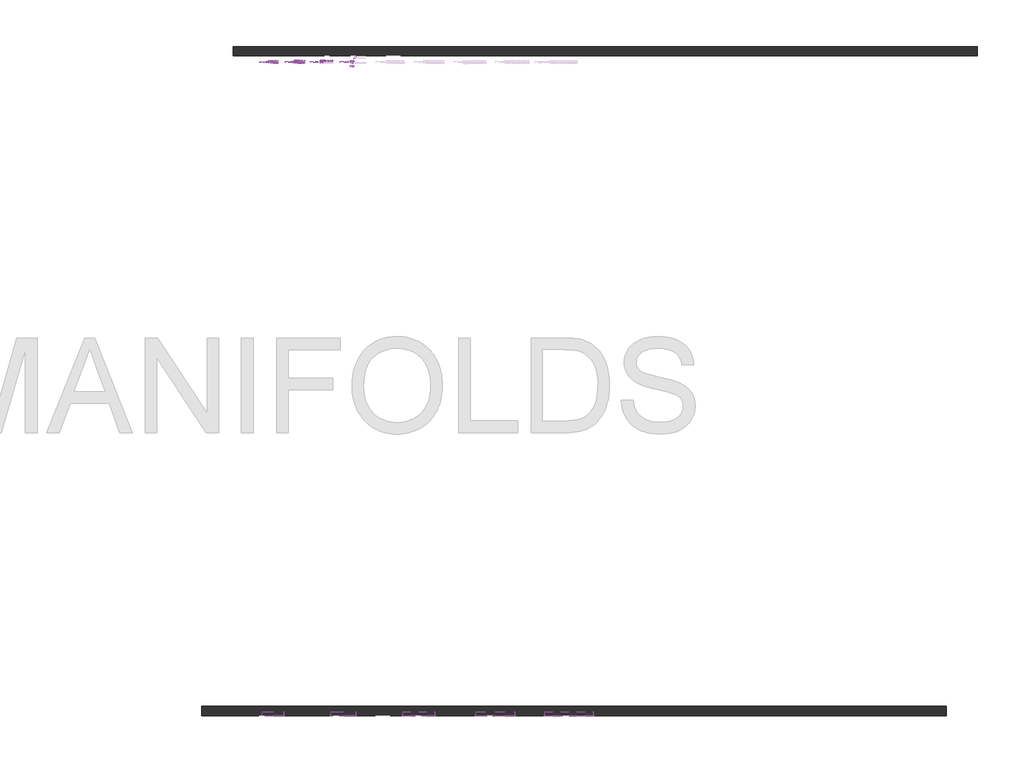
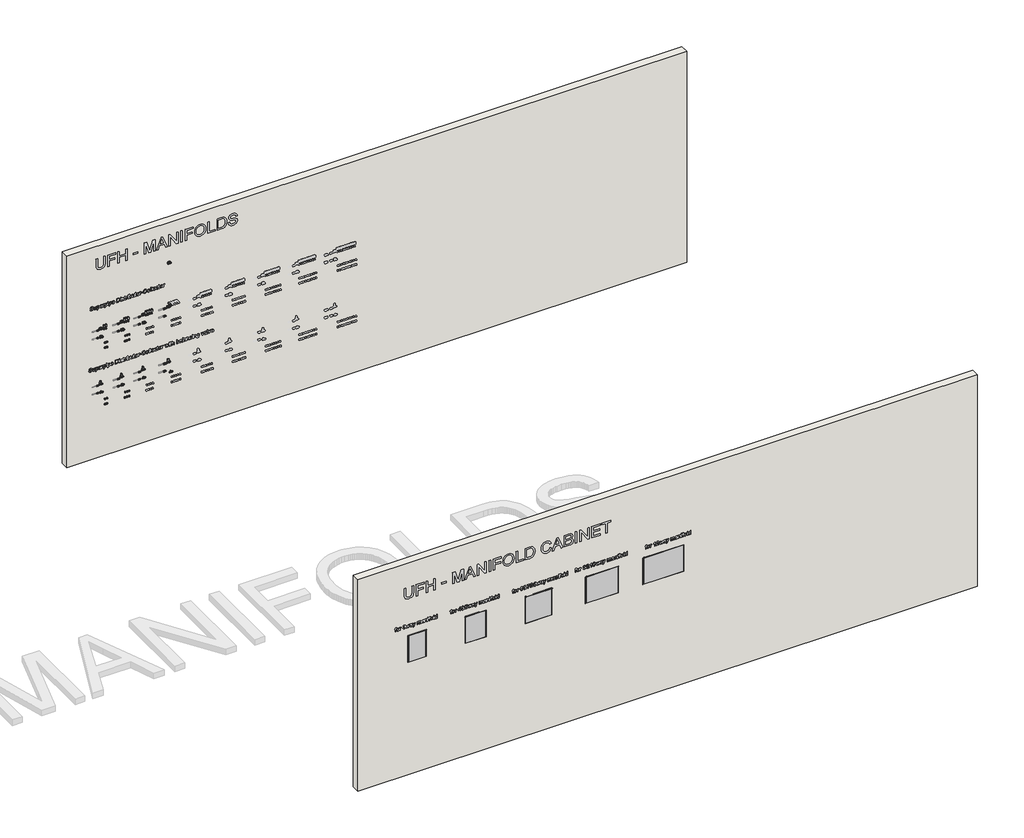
# One storey, part 1 of 26: 40 valves, 36 pipe fittings, 16 pipe segments, 2 walls.
"""IFC4 building model written with IfcOpenShell, lengths in millimetres."""

from ifc_helpers import new_model, si_unit, point, frame, frame_2d, origin, origin_with_axes, place, context, project, spatial, polyline, circle_curve, trimmed, segment, composite_curve, outline, extrude, faceted_brep, transform, mapped, element, save
from components import pipe_fitting_a4cde8ab, pipe_fitting_d8af90f1, press_connection_with_male_thread_6ada2280, press_connection_with_male_thread_5719c467, press_connection_with_male_thread_667abdb5, valve_0291d072, valve_f4025eb8, valve_fccc3399, valve_a3a22d59, valve_1bf73670, valve_7eb98000, valve_a9c0bb32, valve_f57de290, valve_f8c4578f, valve_6676fd30, valve_60ca6583, valve_ceda44c9, valve_7287f850, valve_68c88c4a

model = new_model("IFC4")

# Units and contexts
model_context = context("Model", 3, world=origin())
ifc_project = project(units=[si_unit("LENGTHUNIT", "METRE", prefix="MILLI")], contexts=[model_context])

# Site, building, storey
site = spatial("IfcSite", under=ifc_project)
building = spatial("IfcBuilding", under=site)
storey = spatial("IfcBuildingStorey", under=building, Name="Superpipe UFH", Elevation=0.0)

# Pipe fittings
placement = place(None, origin())
pipe_fitting_shape = pipe_fitting_a4cde8ab(model_context)
element("IfcPipeFitting", 1, ObjectType="Compression Adapter 3/4\"FT : Superpipe Compression Adapter", at=placement, inside=storey, context=model_context, shape_type="MappedRepresentation", body=[
    mapped(pipe_fitting_shape, transform((1275.0760208, -1357.1498396, 3024.2503675), x_axis=(0.0, 0.0, -1.0), y_axis=(0.0, 1.0, 0.0), z_axis=(1.0, 0.0, 0.0))),
])
element("IfcPipeFitting", 2, ObjectType="Compression Adapter 3/4\"FT : Superpipe Compression Adapter", at=placement, inside=storey, context=model_context, shape_type="MappedRepresentation", body=[
    mapped(pipe_fitting_shape, transform((1327.690436, -1357.1498396, 3024.2503675), x_axis=(0.0, 0.0, -1.0), y_axis=(0.0, 1.0, 0.0), z_axis=(1.0, 0.0, 0.0))),
])
element("IfcPipeFitting", 3, ObjectType="Compression Adapter 3/4\"FT : Superpipe Compression Adapter", at=placement, inside=storey, context=model_context, shape_type="MappedRepresentation", body=[
    mapped(pipe_fitting_shape, transform((1785.0760208, -1357.1498396, 3024.2503675), x_axis=(0.0, 0.0, -1.0), y_axis=(0.0, 1.0, 0.0), z_axis=(1.0, 0.0, 0.0))),
])
element("IfcPipeFitting", 4, ObjectType="Compression Adapter 3/4\"FT : Superpipe Compression Adapter", at=placement, inside=storey, context=model_context, shape_type="MappedRepresentation", body=[
    mapped(pipe_fitting_shape, transform((1837.690436, -1357.1498396, 3024.2503675), x_axis=(0.0, 0.0, -1.0), y_axis=(0.0, 1.0, 0.0), z_axis=(1.0, 0.0, 0.0))),
])
element("IfcPipeFitting", 5, ObjectType="Compression Adapter 3/4\"FT : Superpipe Compression Adapter", at=placement, inside=storey, context=model_context, shape_type="MappedRepresentation", body=[
    mapped(pipe_fitting_shape, transform((1892.690436, -1357.1498396, 3024.2503675), x_axis=(0.0, 0.0, -1.0), y_axis=(0.0, 1.0, 0.0), z_axis=(1.0, 0.0, 0.0))),
])
element("IfcPipeFitting", 6, ObjectType="Compression Adapter 3/4\"FT : Superpipe Compression Adapter", at=placement, inside=storey, context=model_context, shape_type="MappedRepresentation", body=[
    mapped(pipe_fitting_shape, transform((1275.0760208, -1357.1498396, 1504.2503675), x_axis=(0.0, 0.0, -1.0), y_axis=(0.0, 1.0, 0.0), z_axis=(1.0, 0.0, 0.0))),
])
element("IfcPipeFitting", 7, ObjectType="Compression Adapter 3/4\"FT : Superpipe Compression Adapter", at=placement, inside=storey, context=model_context, shape_type="MappedRepresentation", body=[
    mapped(pipe_fitting_shape, transform((1327.690436, -1357.1498396, 1504.2503675), x_axis=(0.0, 0.0, -1.0), y_axis=(0.0, 1.0, 0.0), z_axis=(1.0, 0.0, 0.0))),
])
element("IfcPipeFitting", 8, ObjectType="Compression Adapter 3/4\"FT : Superpipe Compression Adapter", at=placement, inside=storey, context=model_context, shape_type="MappedRepresentation", body=[
    mapped(pipe_fitting_shape, transform((1785.0760208, -1357.1498396, 1504.2503675), x_axis=(0.0, 0.0, -1.0), y_axis=(0.0, 1.0, 0.0), z_axis=(1.0, 0.0, 0.0))),
])
element("IfcPipeFitting", 9, ObjectType="Compression Adapter 3/4\"FT : Superpipe Compression Adapter", at=placement, inside=storey, context=model_context, shape_type="MappedRepresentation", body=[
    mapped(pipe_fitting_shape, transform((1837.690436, -1357.1498396, 1504.2503675), x_axis=(0.0, 0.0, -1.0), y_axis=(0.0, 1.0, 0.0), z_axis=(1.0, 0.0, 0.0))),
])
element("IfcPipeFitting", 10, ObjectType="Compression Adapter 3/4\"FT : Superpipe Compression Adapter", at=placement, inside=storey, context=model_context, shape_type="MappedRepresentation", body=[
    mapped(pipe_fitting_shape, transform((1892.690436, -1357.1498396, 1504.2503675), x_axis=(0.0, 0.0, -1.0), y_axis=(0.0, 1.0, 0.0), z_axis=(1.0, 0.0, 0.0))),
])
pipe_fitting_2_shape = pipe_fitting_d8af90f1(model_context)
element("IfcPipeFitting", 11, ObjectType="Compression Adapter Euro : Superpipe Compression Adapter Euro", at=placement, inside=storey, context=model_context, shape_type="MappedRepresentation", body=[
    mapped(pipe_fitting_2_shape, transform((1272.7857584, -1357.1498396, 3162.7554532), x_axis=(0.0, 0.0, -1.0000000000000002), y_axis=(0.0, 1.0000000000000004, 0.0), z_axis=(1.0000000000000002, 0.0, 0.0))),
])
element("IfcPipeFitting", 12, ObjectType="Compression Adapter Euro : Superpipe Compression Adapter Euro", at=placement, inside=storey, context=model_context, shape_type="MappedRepresentation", body=[
    mapped(pipe_fitting_2_shape, transform((1325.2857584, -1357.1498396, 3162.7554532), x_axis=(0.0, 0.0, -1.0000000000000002), y_axis=(0.0, 1.0000000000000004, 0.0), z_axis=(1.0000000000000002, 0.0, 0.0))),
])
element("IfcPipeFitting", 13, ObjectType="Compression Adapter Euro : Superpipe Compression Adapter Euro", at=placement, inside=storey, context=model_context, shape_type="MappedRepresentation", body=[
    mapped(pipe_fitting_2_shape, transform((1792.7857584, -1357.1498396, 3162.7554532), x_axis=(0.0, 0.0, -1.0000000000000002), y_axis=(0.0, 1.0000000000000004, 0.0), z_axis=(1.0000000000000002, 0.0, 0.0))),
])
element("IfcPipeFitting", 14, ObjectType="Compression Adapter Euro : Superpipe Compression Adapter Euro", at=placement, inside=storey, context=model_context, shape_type="MappedRepresentation", body=[
    mapped(pipe_fitting_2_shape, transform((1842.7857584, -1357.1498396, 3162.7554532), x_axis=(0.0, 0.0, -1.0000000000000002), y_axis=(0.0, 1.0000000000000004, 0.0), z_axis=(1.0000000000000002, 0.0, 0.0))),
])
element("IfcPipeFitting", 15, ObjectType="Compression Adapter Euro : Superpipe Compression Adapter Euro", at=placement, inside=storey, context=model_context, shape_type="MappedRepresentation", body=[
    mapped(pipe_fitting_2_shape, transform((1894.0357584, -1357.1498396, 3162.7554532), x_axis=(0.0, 0.0, -1.0000000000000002), y_axis=(0.0, 1.0000000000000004, 0.0), z_axis=(1.0000000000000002, 0.0, 0.0))),
])
element("IfcPipeFitting", 16, ObjectType="Compression Adapter Euro : Superpipe Compression Adapter Euro", at=placement, inside=storey, context=model_context, shape_type="MappedRepresentation", body=[
    mapped(pipe_fitting_2_shape, transform((1272.7857584, -1357.1498396, 1642.7554532), x_axis=(0.0, 0.0, -1.0000000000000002), y_axis=(0.0, 1.0000000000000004, 0.0), z_axis=(1.0000000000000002, 0.0, 0.0))),
])
element("IfcPipeFitting", 17, ObjectType="Compression Adapter Euro : Superpipe Compression Adapter Euro", at=placement, inside=storey, context=model_context, shape_type="MappedRepresentation", body=[
    mapped(pipe_fitting_2_shape, transform((1325.2857584, -1357.1498396, 1642.7554532), x_axis=(0.0, 0.0, -1.0000000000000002), y_axis=(0.0, 1.0000000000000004, 0.0), z_axis=(1.0000000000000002, 0.0, 0.0))),
])
element("IfcPipeFitting", 18, ObjectType="Compression Adapter Euro : Superpipe Compression Adapter Euro", at=placement, inside=storey, context=model_context, shape_type="MappedRepresentation", body=[
    mapped(pipe_fitting_2_shape, transform((1792.7857584, -1357.1498396, 1642.7554532), x_axis=(0.0, 0.0, -1.0000000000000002), y_axis=(0.0, 1.0000000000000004, 0.0), z_axis=(1.0000000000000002, 0.0, 0.0))),
])
element("IfcPipeFitting", 19, ObjectType="Compression Adapter Euro : Superpipe Compression Adapter Euro", at=placement, inside=storey, context=model_context, shape_type="MappedRepresentation", body=[
    mapped(pipe_fitting_2_shape, transform((1842.7857584, -1357.1498396, 1642.7554532), x_axis=(0.0, 0.0, -1.0000000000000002), y_axis=(0.0, 1.0000000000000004, 0.0), z_axis=(1.0000000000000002, 0.0, 0.0))),
])
element("IfcPipeFitting", 20, ObjectType="Compression Adapter Euro : Superpipe Compression Adapter Euro", at=placement, inside=storey, context=model_context, shape_type="MappedRepresentation", body=[
    mapped(pipe_fitting_2_shape, transform((1894.0357584, -1357.1498396, 1642.7554532), x_axis=(0.0, 0.0, -1.0000000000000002), y_axis=(0.0, 1.0000000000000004, 0.0), z_axis=(1.0000000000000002, 0.0, 0.0))),
])
press_connection_with_male_thread_shape = press_connection_with_male_thread_6ada2280(model_context)
element("IfcPipeFitting", 21, ObjectType="Press Connection with Male Thread : Superpipe Press Connection - 25x¾” MT", at=placement, inside=storey, context=model_context, shape_type="MappedRepresentation", body=[
    mapped(press_connection_with_male_thread_shape, transform((1601.2290247, -1341.3459802, 3524.1931874), x_axis=(1.0, 0.0, 0.0), y_axis=(0.0, 1.0, 0.0), z_axis=(0.0, 0.0, 1.0))),
])
element("IfcPipeFitting", 22, ObjectType="Press Connection with Male Thread : Superpipe Press Connection - 25x¾” MT", at=placement, inside=storey, context=model_context, shape_type="MappedRepresentation", body=[
    mapped(press_connection_with_male_thread_shape, transform((1601.2290247, -1341.3459802, 3324.6931874), x_axis=(1.0, 0.0, 0.0), y_axis=(0.0, 1.0, 0.0), z_axis=(0.0, 0.0, 1.0))),
])
element("IfcPipeFitting", 23, ObjectType="Press Connection with Male Thread : Superpipe Press Connection - 25x¾” MT", at=placement, inside=storey, context=model_context, shape_type="MappedRepresentation", body=[
    mapped(press_connection_with_male_thread_shape, transform((1601.2290247, -1341.3459802, 2038.4293979), x_axis=(1.0, 0.0, 0.0), y_axis=(0.0, 1.0, 0.0), z_axis=(0.0, 0.0, 1.0))),
])
element("IfcPipeFitting", 24, ObjectType="Press Connection with Male Thread : Superpipe Press Connection - 25x¾” MT", at=placement, inside=storey, context=model_context, shape_type="MappedRepresentation", body=[
    mapped(press_connection_with_male_thread_shape, transform((1601.2290247, -1341.3459802, 1838.9293979), x_axis=(1.0, 0.0, 0.0), y_axis=(0.0, 1.0, 0.0), z_axis=(0.0, 0.0, 1.0))),
])
element("IfcPipeFitting", 25, ObjectType="Press Connection with Male Thread : Superpipe Press Connection - 25x¾” MT", at=placement, inside=storey, context=model_context, shape_type="MappedRepresentation", body=[
    mapped(press_connection_with_male_thread_shape, transform((2134.7944698, -1341.3459802, 3524.1931874), x_axis=(1.0, 0.0, 0.0), y_axis=(0.0, 1.0, 0.0), z_axis=(0.0, 0.0, 1.0))),
])
element("IfcPipeFitting", 26, ObjectType="Press Connection with Male Thread : Superpipe Press Connection - 25x¾” MT", at=placement, inside=storey, context=model_context, shape_type="MappedRepresentation", body=[
    mapped(press_connection_with_male_thread_shape, transform((2134.7944698, -1341.3459802, 3324.6931874), x_axis=(1.0, 0.0, 0.0), y_axis=(0.0, 1.0, 0.0), z_axis=(0.0, 0.0, 1.0))),
])
element("IfcPipeFitting", 27, ObjectType="Press Connection with Male Thread : Superpipe Press Connection - 25x¾” MT", at=placement, inside=storey, context=model_context, shape_type="MappedRepresentation", body=[
    mapped(press_connection_with_male_thread_shape, transform((2134.7944698, -1341.3459802, 2038.4293979), x_axis=(1.0, 0.0, 0.0), y_axis=(0.0, 1.0, 0.0), z_axis=(0.0, 0.0, 1.0))),
])
element("IfcPipeFitting", 28, ObjectType="Press Connection with Male Thread : Superpipe Press Connection - 25x¾” MT", at=placement, inside=storey, context=model_context, shape_type="MappedRepresentation", body=[
    mapped(press_connection_with_male_thread_shape, transform((2134.7944698, -1341.3459802, 1838.9293979), x_axis=(1.0, 0.0, 0.0), y_axis=(0.0, 1.0, 0.0), z_axis=(0.0, 0.0, 1.0))),
])
press_connection_with_male_thread_2_shape = press_connection_with_male_thread_5719c467(model_context)
element("IfcPipeFitting", 29, ObjectType="Press Connection with Male Thread : Superpipe Press Connection - 20x¾” MT", at=placement, inside=storey, context=model_context, shape_type="MappedRepresentation", body=[
    mapped(press_connection_with_male_thread_2_shape, transform((1071.7534127, -1341.3459802, 3524.1931874), x_axis=(1.0, 0.0, 0.0), y_axis=(0.0, 1.0, 0.0), z_axis=(0.0, 0.0, 1.0))),
])
element("IfcPipeFitting", 30, ObjectType="Press Connection with Male Thread : Superpipe Press Connection - 20x¾” MT", at=placement, inside=storey, context=model_context, shape_type="MappedRepresentation", body=[
    mapped(press_connection_with_male_thread_2_shape, transform((1071.7534127, -1341.3459802, 3324.6931874), x_axis=(1.0, 0.0, 0.0), y_axis=(0.0, 1.0, 0.0), z_axis=(0.0, 0.0, 1.0))),
])
element("IfcPipeFitting", 31, ObjectType="Press Connection with Male Thread : Superpipe Press Connection - 20x¾” MT", at=placement, inside=storey, context=model_context, shape_type="MappedRepresentation", body=[
    mapped(press_connection_with_male_thread_2_shape, transform((1071.7534127, -1341.3459802, 2038.4293979), x_axis=(1.0, 0.0, 0.0), y_axis=(0.0, 1.0, 0.0), z_axis=(0.0, 0.0, 1.0))),
])
element("IfcPipeFitting", 32, ObjectType="Press Connection with Male Thread : Superpipe Press Connection - 20x¾” MT", at=placement, inside=storey, context=model_context, shape_type="MappedRepresentation", body=[
    mapped(press_connection_with_male_thread_2_shape, transform((1068.8619655, -1341.3459802, 1838.9293979), x_axis=(1.0, 0.0, 0.0), y_axis=(0.0, 1.0, 0.0), z_axis=(0.0, 0.0, 1.0))),
])
press_connection_with_male_thread_3_shape = press_connection_with_male_thread_667abdb5(model_context)
element("IfcPipeFitting", 33, ObjectType="Press Connection with Male Thread : Superpipe Press Connection - 32x1\" MT", at=placement, inside=storey, context=model_context, shape_type="MappedRepresentation", body=[
    mapped(press_connection_with_male_thread_3_shape, transform((2774.3149911, -1341.3459802, 3518.2554532), x_axis=(1.0, 0.0, 0.0), y_axis=(0.0, 1.0, 0.0), z_axis=(0.0, 0.0, 1.0))),
])
element("IfcPipeFitting", 34, ObjectType="Press Connection with Male Thread : Superpipe Press Connection - 32x1\" MT", at=placement, inside=storey, context=model_context, shape_type="MappedRepresentation", body=[
    mapped(press_connection_with_male_thread_3_shape, transform((2774.3149911, -1341.3459802, 3317.5791945), x_axis=(1.0, 0.0, 0.0), y_axis=(0.0, 1.0, 0.0), z_axis=(0.0, 0.0, 1.0))),
])
element("IfcPipeFitting", 35, ObjectType="Press Connection with Male Thread : Superpipe Press Connection - 32x1\" MT", at=placement, inside=storey, context=model_context, shape_type="MappedRepresentation", body=[
    mapped(press_connection_with_male_thread_3_shape, transform((2774.3149911, -1341.3459802, 2032.4916637), x_axis=(1.0, 0.0, 0.0), y_axis=(0.0, 1.0, 0.0), z_axis=(0.0, 0.0, 1.0))),
])
element("IfcPipeFitting", 36, ObjectType="Press Connection with Male Thread : Superpipe Press Connection - 32x1\" MT", at=placement, inside=storey, context=model_context, shape_type="MappedRepresentation", body=[
    mapped(press_connection_with_male_thread_3_shape, transform((2774.3149911, -1341.3459802, 1831.815405), x_axis=(1.0, 0.0, 0.0), y_axis=(0.0, 1.0, 0.0), z_axis=(0.0, 0.0, 1.0))),
])

# Pipe segments
element("IfcPipeSegment", 37, ObjectType="Superpipe 2+ coil", at=placement, inside=storey, context=model_context, shape_type="SweptSolid", body=[
    extrude(outline(composite_curve([segment(trimmed(circle_curve(frame_2d((-1341.3459802, 3524.1931874)), 10.0), [point((-1331.3459802, 3524.1931874))], [point((-1341.3459802, 3514.1931874))], False, "CARTESIAN"), True, "CONTINUOUS"), segment(trimmed(circle_curve(frame_2d((-1341.3459802, 3524.1931874)), 10.0), [point((-1341.3459802, 3514.1931874))], [point((-1351.3459802, 3524.1931874))], False, "CARTESIAN"), True, "CONTINUOUS"), segment(trimmed(circle_curve(frame_2d((-1341.3459802, 3524.1931874)), 10.0), [point((-1351.3459802, 3524.1931874))], [point((-1341.3459802, 3534.1931874))], False, "CARTESIAN"), True, "CONTINUOUS"), segment(trimmed(circle_curve(frame_2d((-1341.3459802, 3524.1931874)), 10.0), [point((-1341.3459802, 3534.1931874))], [point((-1331.3459802, 3524.1931874))], False, "CARTESIAN"), True, "CONTINUOUS")], self_intersect=False)), frame((963.493084, 0.0, 0.0), z_axis=(1.0, 0.0, 0.0), x_axis=(0.0, 1.0, 0.0)), (0.0, 0.0, 1.0), 134.2603287),
])
element("IfcPipeSegment", 38, ObjectType="Superpipe 2+ coil", at=placement, inside=storey, context=model_context, shape_type="SweptSolid", body=[
    extrude(outline(composite_curve([segment(trimmed(circle_curve(frame_2d((-1341.3459802, 3324.6931874)), 10.0), [point((-1331.3459802, 3324.6931874))], [point((-1341.3459802, 3314.6931874))], False, "CARTESIAN"), True, "CONTINUOUS"), segment(trimmed(circle_curve(frame_2d((-1341.3459802, 3324.6931874)), 10.0), [point((-1341.3459802, 3314.6931874))], [point((-1351.3459802, 3324.6931874))], False, "CARTESIAN"), True, "CONTINUOUS"), segment(trimmed(circle_curve(frame_2d((-1341.3459802, 3324.6931874)), 10.0), [point((-1351.3459802, 3324.6931874))], [point((-1341.3459802, 3334.6931874))], False, "CARTESIAN"), True, "CONTINUOUS"), segment(trimmed(circle_curve(frame_2d((-1341.3459802, 3324.6931874)), 10.0), [point((-1341.3459802, 3334.6931874))], [point((-1331.3459802, 3324.6931874))], False, "CARTESIAN"), True, "CONTINUOUS")], self_intersect=False)), frame((963.493084, 0.0, 0.0), z_axis=(1.0, 0.0, 0.0), x_axis=(0.0, 1.0, 0.0)), (0.0, 0.0, 1.0), 134.2603287),
])
element("IfcPipeSegment", 39, ObjectType="Superpipe 2+ coil", at=placement, inside=storey, context=model_context, shape_type="SweptSolid", body=[
    extrude(outline(composite_curve([segment(trimmed(circle_curve(frame_2d((-1341.3459802, 2038.4293979)), 10.0), [point((-1331.3459802, 2038.4293979))], [point((-1341.3459802, 2028.4293979))], False, "CARTESIAN"), True, "CONTINUOUS"), segment(trimmed(circle_curve(frame_2d((-1341.3459802, 2038.4293979)), 10.0), [point((-1341.3459802, 2028.4293979))], [point((-1351.3459802, 2038.4293979))], False, "CARTESIAN"), True, "CONTINUOUS"), segment(trimmed(circle_curve(frame_2d((-1341.3459802, 2038.4293979)), 10.0), [point((-1351.3459802, 2038.4293979))], [point((-1341.3459802, 2048.4293979))], False, "CARTESIAN"), True, "CONTINUOUS"), segment(trimmed(circle_curve(frame_2d((-1341.3459802, 2038.4293979)), 10.0), [point((-1341.3459802, 2048.4293979))], [point((-1331.3459802, 2038.4293979))], False, "CARTESIAN"), True, "CONTINUOUS")], self_intersect=False)), frame((960.6016368, 0.0, 0.0), z_axis=(1.0, 0.0, 0.0), x_axis=(0.0, 1.0, 0.0)), (0.0, 0.0, 1.0), 137.1517759),
])
element("IfcPipeSegment", 40, ObjectType="Superpipe 2+ coil", at=placement, inside=storey, context=model_context, shape_type="SweptSolid", body=[
    extrude(outline(composite_curve([segment(trimmed(circle_curve(frame_2d((-1341.3459802, 1838.9293979)), 10.0), [point((-1331.3459802, 1838.9293979))], [point((-1341.3459802, 1828.9293979))], False, "CARTESIAN"), True, "CONTINUOUS"), segment(trimmed(circle_curve(frame_2d((-1341.3459802, 1838.9293979)), 10.0), [point((-1341.3459802, 1828.9293979))], [point((-1351.3459802, 1838.9293979))], False, "CARTESIAN"), True, "CONTINUOUS"), segment(trimmed(circle_curve(frame_2d((-1341.3459802, 1838.9293979)), 10.0), [point((-1351.3459802, 1838.9293979))], [point((-1341.3459802, 1848.9293979))], False, "CARTESIAN"), True, "CONTINUOUS"), segment(trimmed(circle_curve(frame_2d((-1341.3459802, 1838.9293979)), 10.0), [point((-1341.3459802, 1848.9293979))], [point((-1331.3459802, 1838.9293979))], False, "CARTESIAN"), True, "CONTINUOUS")], self_intersect=False)), frame((960.6016368, 0.0, 0.0), z_axis=(1.0, 0.0, 0.0), x_axis=(0.0, 1.0, 0.0)), (0.0, 0.0, 1.0), 134.2603287),
])
element("IfcPipeSegment", 41, ObjectType="Superpipe 2+ coil", at=placement, inside=storey, context=model_context, shape_type="SweptSolid", body=[
    extrude(outline(composite_curve([segment(trimmed(circle_curve(frame_2d((-1341.3459802, 3524.1931874)), 12.5), [point((-1328.8459802, 3524.1931874))], [point((-1341.3459802, 3511.6931874))], False, "CARTESIAN"), True, "CONTINUOUS"), segment(trimmed(circle_curve(frame_2d((-1341.3459802, 3524.1931874)), 12.5), [point((-1341.3459802, 3511.6931874))], [point((-1353.8459802, 3524.1931874))], False, "CARTESIAN"), True, "CONTINUOUS"), segment(trimmed(circle_curve(frame_2d((-1341.3459802, 3524.1931874)), 12.5), [point((-1353.8459802, 3524.1931874))], [point((-1341.3459802, 3536.6931874))], False, "CARTESIAN"), True, "CONTINUOUS"), segment(trimmed(circle_curve(frame_2d((-1341.3459802, 3524.1931874)), 12.5), [point((-1341.3459802, 3536.6931874))], [point((-1328.8459802, 3524.1931874))], False, "CARTESIAN"), True, "CONTINUOUS")], self_intersect=False)), frame((1492.968696, 0.0, 0.0), z_axis=(1.0, 0.0, 0.0), x_axis=(0.0, 1.0, 0.0)), (0.0, 0.0, 1.0), 140.7603287),
])
element("IfcPipeSegment", 42, ObjectType="Superpipe 2+ coil", at=placement, inside=storey, context=model_context, shape_type="SweptSolid", body=[
    extrude(outline(composite_curve([segment(trimmed(circle_curve(frame_2d((-1341.3459802, 3324.6931874)), 12.5), [point((-1328.8459802, 3324.6931874))], [point((-1341.3459802, 3312.1931874))], False, "CARTESIAN"), True, "CONTINUOUS"), segment(trimmed(circle_curve(frame_2d((-1341.3459802, 3324.6931874)), 12.5), [point((-1341.3459802, 3312.1931874))], [point((-1353.8459802, 3324.6931874))], False, "CARTESIAN"), True, "CONTINUOUS"), segment(trimmed(circle_curve(frame_2d((-1341.3459802, 3324.6931874)), 12.5), [point((-1353.8459802, 3324.6931874))], [point((-1341.3459802, 3337.1931874))], False, "CARTESIAN"), True, "CONTINUOUS"), segment(trimmed(circle_curve(frame_2d((-1341.3459802, 3324.6931874)), 12.5), [point((-1341.3459802, 3337.1931874))], [point((-1328.8459802, 3324.6931874))], False, "CARTESIAN"), True, "CONTINUOUS")], self_intersect=False)), frame((1492.968696, 0.0, 0.0), z_axis=(1.0, 0.0, 0.0), x_axis=(0.0, 1.0, 0.0)), (0.0, 0.0, 1.0), 140.7603287),
])
element("IfcPipeSegment", 43, ObjectType="Superpipe 2+ coil", at=placement, inside=storey, context=model_context, shape_type="SweptSolid", body=[
    extrude(outline(composite_curve([segment(trimmed(circle_curve(frame_2d((-1341.3459802, 2038.4293979)), 12.5), [point((-1328.8459802, 2038.4293979))], [point((-1341.3459802, 2025.9293979))], False, "CARTESIAN"), True, "CONTINUOUS"), segment(trimmed(circle_curve(frame_2d((-1341.3459802, 2038.4293979)), 12.5), [point((-1341.3459802, 2025.9293979))], [point((-1353.8459802, 2038.4293979))], False, "CARTESIAN"), True, "CONTINUOUS"), segment(trimmed(circle_curve(frame_2d((-1341.3459802, 2038.4293979)), 12.5), [point((-1353.8459802, 2038.4293979))], [point((-1341.3459802, 2050.9293979))], False, "CARTESIAN"), True, "CONTINUOUS"), segment(trimmed(circle_curve(frame_2d((-1341.3459802, 2038.4293979)), 12.5), [point((-1341.3459802, 2050.9293979))], [point((-1328.8459802, 2038.4293979))], False, "CARTESIAN"), True, "CONTINUOUS")], self_intersect=False)), frame((1503.1742075, 0.0, 0.0), z_axis=(1.0, 0.0, 0.0), x_axis=(0.0, 1.0, 0.0)), (0.0, 0.0, 1.0), 130.5548173),
])
element("IfcPipeSegment", 44, ObjectType="Superpipe 2+ coil", at=placement, inside=storey, context=model_context, shape_type="SweptSolid", body=[
    extrude(outline(composite_curve([segment(trimmed(circle_curve(frame_2d((-1341.3459802, 1838.9293979)), 12.5), [point((-1328.8459802, 1838.9293979))], [point((-1341.3459802, 1826.4293979))], False, "CARTESIAN"), True, "CONTINUOUS"), segment(trimmed(circle_curve(frame_2d((-1341.3459802, 1838.9293979)), 12.5), [point((-1341.3459802, 1826.4293979))], [point((-1353.8459802, 1838.9293979))], False, "CARTESIAN"), True, "CONTINUOUS"), segment(trimmed(circle_curve(frame_2d((-1341.3459802, 1838.9293979)), 12.5), [point((-1353.8459802, 1838.9293979))], [point((-1341.3459802, 1851.4293979))], False, "CARTESIAN"), True, "CONTINUOUS"), segment(trimmed(circle_curve(frame_2d((-1341.3459802, 1838.9293979)), 12.5), [point((-1341.3459802, 1851.4293979))], [point((-1328.8459802, 1838.9293979))], False, "CARTESIAN"), True, "CONTINUOUS")], self_intersect=False)), frame((1503.1742075, 0.0, 0.0), z_axis=(1.0, 0.0, 0.0), x_axis=(0.0, 1.0, 0.0)), (0.0, 0.0, 1.0), 130.5548173),
])
element("IfcPipeSegment", 45, ObjectType="Superpipe 2+ coil", at=placement, inside=storey, context=model_context, shape_type="SweptSolid", body=[
    extrude(outline(composite_curve([segment(trimmed(circle_curve(frame_2d((-1341.3459802, 3524.1931874)), 12.5), [point((-1328.8459802, 3524.1931874))], [point((-1341.3459802, 3511.6931874))], False, "CARTESIAN"), True, "CONTINUOUS"), segment(trimmed(circle_curve(frame_2d((-1341.3459802, 3524.1931874)), 12.5), [point((-1341.3459802, 3511.6931874))], [point((-1353.8459802, 3524.1931874))], False, "CARTESIAN"), True, "CONTINUOUS"), segment(trimmed(circle_curve(frame_2d((-1341.3459802, 3524.1931874)), 12.5), [point((-1353.8459802, 3524.1931874))], [point((-1341.3459802, 3536.6931874))], False, "CARTESIAN"), True, "CONTINUOUS"), segment(trimmed(circle_curve(frame_2d((-1341.3459802, 3524.1931874)), 12.5), [point((-1341.3459802, 3536.6931874))], [point((-1328.8459802, 3524.1931874))], False, "CARTESIAN"), True, "CONTINUOUS")], self_intersect=False)), frame((2026.5341411, 0.0, 0.0), z_axis=(1.0, 0.0, 0.0), x_axis=(0.0, 1.0, 0.0)), (0.0, 0.0, 1.0), 140.7603287),
])
element("IfcPipeSegment", 46, ObjectType="Superpipe 2+ coil", at=placement, inside=storey, context=model_context, shape_type="SweptSolid", body=[
    extrude(outline(composite_curve([segment(trimmed(circle_curve(frame_2d((-1341.3459802, 3324.6931874)), 12.5), [point((-1328.8459802, 3324.6931874))], [point((-1341.3459802, 3312.1931874))], False, "CARTESIAN"), True, "CONTINUOUS"), segment(trimmed(circle_curve(frame_2d((-1341.3459802, 3324.6931874)), 12.5), [point((-1341.3459802, 3312.1931874))], [point((-1353.8459802, 3324.6931874))], False, "CARTESIAN"), True, "CONTINUOUS"), segment(trimmed(circle_curve(frame_2d((-1341.3459802, 3324.6931874)), 12.5), [point((-1353.8459802, 3324.6931874))], [point((-1341.3459802, 3337.1931874))], False, "CARTESIAN"), True, "CONTINUOUS"), segment(trimmed(circle_curve(frame_2d((-1341.3459802, 3324.6931874)), 12.5), [point((-1341.3459802, 3337.1931874))], [point((-1328.8459802, 3324.6931874))], False, "CARTESIAN"), True, "CONTINUOUS")], self_intersect=False)), frame((2026.5341411, 0.0, 0.0), z_axis=(1.0, 0.0, 0.0), x_axis=(0.0, 1.0, 0.0)), (0.0, 0.0, 1.0), 140.7603287),
])
element("IfcPipeSegment", 47, ObjectType="Superpipe 2+ coil", at=placement, inside=storey, context=model_context, shape_type="SweptSolid", body=[
    extrude(outline(composite_curve([segment(trimmed(circle_curve(frame_2d((-1341.3459802, 2038.4293979)), 12.5), [point((-1328.8459802, 2038.4293979))], [point((-1341.3459802, 2025.9293979))], False, "CARTESIAN"), True, "CONTINUOUS"), segment(trimmed(circle_curve(frame_2d((-1341.3459802, 2038.4293979)), 12.5), [point((-1341.3459802, 2025.9293979))], [point((-1353.8459802, 2038.4293979))], False, "CARTESIAN"), True, "CONTINUOUS"), segment(trimmed(circle_curve(frame_2d((-1341.3459802, 2038.4293979)), 12.5), [point((-1353.8459802, 2038.4293979))], [point((-1341.3459802, 2050.9293979))], False, "CARTESIAN"), True, "CONTINUOUS"), segment(trimmed(circle_curve(frame_2d((-1341.3459802, 2038.4293979)), 12.5), [point((-1341.3459802, 2050.9293979))], [point((-1328.8459802, 2038.4293979))], False, "CARTESIAN"), True, "CONTINUOUS")], self_intersect=False)), frame((2026.5341411, 0.0, 0.0), z_axis=(1.0, 0.0, 0.0), x_axis=(0.0, 1.0, 0.0)), (0.0, 0.0, 1.0), 140.7603287),
])
element("IfcPipeSegment", 48, ObjectType="Superpipe 2+ coil", at=placement, inside=storey, context=model_context, shape_type="SweptSolid", body=[
    extrude(outline(composite_curve([segment(trimmed(circle_curve(frame_2d((-1341.3459802, 1838.9293979)), 12.5), [point((-1328.8459802, 1838.9293979))], [point((-1341.3459802, 1826.4293979))], False, "CARTESIAN"), True, "CONTINUOUS"), segment(trimmed(circle_curve(frame_2d((-1341.3459802, 1838.9293979)), 12.5), [point((-1341.3459802, 1826.4293979))], [point((-1353.8459802, 1838.9293979))], False, "CARTESIAN"), True, "CONTINUOUS"), segment(trimmed(circle_curve(frame_2d((-1341.3459802, 1838.9293979)), 12.5), [point((-1353.8459802, 1838.9293979))], [point((-1341.3459802, 1851.4293979))], False, "CARTESIAN"), True, "CONTINUOUS"), segment(trimmed(circle_curve(frame_2d((-1341.3459802, 1838.9293979)), 12.5), [point((-1341.3459802, 1851.4293979))], [point((-1328.8459802, 1838.9293979))], False, "CARTESIAN"), True, "CONTINUOUS")], self_intersect=False)), frame((2026.5341411, 0.0, 0.0), z_axis=(1.0, 0.0, 0.0), x_axis=(0.0, 1.0, 0.0)), (0.0, 0.0, 1.0), 140.7603287),
])
element("IfcPipeSegment", 49, ObjectType="Superpipe 2+ coil", at=placement, inside=storey, context=model_context, shape_type="SweptSolid", body=[
    extrude(outline(composite_curve([segment(trimmed(circle_curve(frame_2d((-1341.3459802, 3518.2554532)), 16.0), [point((-1325.3459802, 3518.2554532))], [point((-1341.3459802, 3502.2554532))], False, "CARTESIAN"), True, "CONTINUOUS"), segment(trimmed(circle_curve(frame_2d((-1341.3459802, 3518.2554532)), 16.0), [point((-1341.3459802, 3502.2554532))], [point((-1357.3459802, 3518.2554532))], False, "CARTESIAN"), True, "CONTINUOUS"), segment(trimmed(circle_curve(frame_2d((-1341.3459802, 3518.2554532)), 16.0), [point((-1357.3459802, 3518.2554532))], [point((-1341.3459802, 3534.2554532))], False, "CARTESIAN"), True, "CONTINUOUS"), segment(trimmed(circle_curve(frame_2d((-1341.3459802, 3518.2554532)), 16.0), [point((-1341.3459802, 3534.2554532))], [point((-1325.3459802, 3518.2554532))], False, "CARTESIAN"), True, "CONTINUOUS")], self_intersect=False)), frame((2666.0546624, 0.0, 0.0), z_axis=(1.0, 0.0, 0.0), x_axis=(0.0, 1.0, 0.0)), (0.0, 0.0, 1.0), 142.2603287),
])
element("IfcPipeSegment", 50, ObjectType="Superpipe 2+ coil", at=placement, inside=storey, context=model_context, shape_type="SweptSolid", body=[
    extrude(outline(composite_curve([segment(trimmed(circle_curve(frame_2d((-1341.3459802, 3317.5791945)), 16.0), [point((-1325.3459802, 3317.5791945))], [point((-1341.3459802, 3301.5791945))], False, "CARTESIAN"), True, "CONTINUOUS"), segment(trimmed(circle_curve(frame_2d((-1341.3459802, 3317.5791945)), 16.0), [point((-1341.3459802, 3301.5791945))], [point((-1357.3459802, 3317.5791945))], False, "CARTESIAN"), True, "CONTINUOUS"), segment(trimmed(circle_curve(frame_2d((-1341.3459802, 3317.5791945)), 16.0), [point((-1357.3459802, 3317.5791945))], [point((-1341.3459802, 3333.5791945))], False, "CARTESIAN"), True, "CONTINUOUS"), segment(trimmed(circle_curve(frame_2d((-1341.3459802, 3317.5791945)), 16.0), [point((-1341.3459802, 3333.5791945))], [point((-1325.3459802, 3317.5791945))], False, "CARTESIAN"), True, "CONTINUOUS")], self_intersect=False)), frame((2666.0546624, 0.0, 0.0), z_axis=(1.0, 0.0, 0.0), x_axis=(0.0, 1.0, 0.0)), (0.0, 0.0, 1.0), 142.2603287),
])
element("IfcPipeSegment", 51, ObjectType="Superpipe 2+ coil", at=placement, inside=storey, context=model_context, shape_type="SweptSolid", body=[
    extrude(outline(composite_curve([segment(trimmed(circle_curve(frame_2d((-1341.3459802, 2032.4916637)), 16.0), [point((-1325.3459802, 2032.4916637))], [point((-1341.3459802, 2016.4916637))], False, "CARTESIAN"), True, "CONTINUOUS"), segment(trimmed(circle_curve(frame_2d((-1341.3459802, 2032.4916637)), 16.0), [point((-1341.3459802, 2016.4916637))], [point((-1357.3459802, 2032.4916637))], False, "CARTESIAN"), True, "CONTINUOUS"), segment(trimmed(circle_curve(frame_2d((-1341.3459802, 2032.4916637)), 16.0), [point((-1357.3459802, 2032.4916637))], [point((-1341.3459802, 2048.4916637))], False, "CARTESIAN"), True, "CONTINUOUS"), segment(trimmed(circle_curve(frame_2d((-1341.3459802, 2032.4916637)), 16.0), [point((-1341.3459802, 2048.4916637))], [point((-1325.3459802, 2032.4916637))], False, "CARTESIAN"), True, "CONTINUOUS")], self_intersect=False)), frame((2666.0546624, 0.0, 0.0), z_axis=(1.0, 0.0, 0.0), x_axis=(0.0, 1.0, 0.0)), (0.0, 0.0, 1.0), 142.2603287),
])
element("IfcPipeSegment", 52, ObjectType="Superpipe 2+ coil", at=placement, inside=storey, context=model_context, shape_type="SweptSolid", body=[
    extrude(outline(composite_curve([segment(trimmed(circle_curve(frame_2d((-1341.3459802, 1831.815405)), 16.0), [point((-1325.3459802, 1831.815405))], [point((-1341.3459802, 1815.815405))], False, "CARTESIAN"), True, "CONTINUOUS"), segment(trimmed(circle_curve(frame_2d((-1341.3459802, 1831.815405)), 16.0), [point((-1341.3459802, 1815.815405))], [point((-1357.3459802, 1831.815405))], False, "CARTESIAN"), True, "CONTINUOUS"), segment(trimmed(circle_curve(frame_2d((-1341.3459802, 1831.815405)), 16.0), [point((-1357.3459802, 1831.815405))], [point((-1341.3459802, 1847.815405))], False, "CARTESIAN"), True, "CONTINUOUS"), segment(trimmed(circle_curve(frame_2d((-1341.3459802, 1831.815405)), 16.0), [point((-1341.3459802, 1847.815405))], [point((-1325.3459802, 1831.815405))], False, "CARTESIAN"), True, "CONTINUOUS")], self_intersect=False)), frame((2666.0546624, 0.0, 0.0), z_axis=(1.0, 0.0, 0.0), x_axis=(0.0, 1.0, 0.0)), (0.0, 0.0, 1.0), 142.2603287),
])

# Valves
valve_shape = valve_0291d072(model_context)
element("IfcValve", 53, ObjectType="Superpipe Actuator : Superpipe Actuator", at=placement, inside=storey, context=model_context, shape_type="MappedRepresentation", body=[
    mapped(valve_shape, transform((1322.4335634, -1321.6706381, 3544.6931874), x_axis=(1.0, 0.0, 0.0), y_axis=(0.0, 1.0, 0.0), z_axis=(0.0, 0.0, 1.0))),
])
element("IfcValve", 54, ObjectType="Superpipe Actuator : Superpipe Actuator", at=placement, inside=storey, context=model_context, shape_type="MappedRepresentation", body=[
    mapped(valve_shape, transform((1272.4335634, -1321.6706381, 3544.6931874), x_axis=(1.0, 0.0, 0.0), y_axis=(0.0, 1.0, 0.0), z_axis=(0.0, 0.0, 1.0))),
])
element("IfcValve", 55, ObjectType="Superpipe Actuator : Superpipe Actuator", at=placement, inside=storey, context=model_context, shape_type="MappedRepresentation", body=[
    mapped(valve_shape, transform((1890.9511827, -1319.4180211, 3544.6931874), x_axis=(1.0, 0.0, 0.0), y_axis=(0.0, 1.0, 0.0), z_axis=(0.0, 0.0, 1.0))),
])
element("IfcValve", 56, ObjectType="Superpipe Actuator : Superpipe Actuator", at=placement, inside=storey, context=model_context, shape_type="MappedRepresentation", body=[
    mapped(valve_shape, transform((1840.9511827, -1319.4180211, 3544.6931874), x_axis=(1.0, 0.0, 0.0), y_axis=(0.0, 1.0, 0.0), z_axis=(0.0, 0.0, 1.0))),
])
element("IfcValve", 57, ObjectType="Superpipe Actuator : Superpipe Actuator", at=placement, inside=storey, context=model_context, shape_type="MappedRepresentation", body=[
    mapped(valve_shape, transform((1790.9511827, -1319.4180211, 3544.6931874), x_axis=(1.0, 0.0, 0.0), y_axis=(0.0, 1.0, 0.0), z_axis=(0.0, 0.0, 1.0))),
])
element("IfcValve", 58, ObjectType="Superpipe Actuator : Superpipe Actuator", at=placement, inside=storey, context=model_context, shape_type="MappedRepresentation", body=[
    mapped(valve_shape, transform((2489.8732248, -1319.4180211, 3544.6931874), x_axis=(1.0, 0.0, 0.0), y_axis=(0.0, 1.0, 0.0), z_axis=(0.0, 0.0, 1.0))),
])
element("IfcValve", 59, ObjectType="Superpipe Actuator : Superpipe Actuator", at=placement, inside=storey, context=model_context, shape_type="MappedRepresentation", body=[
    mapped(valve_shape, transform((2439.8732248, -1319.4180211, 3544.6931874), x_axis=(1.0, 0.0, 0.0), y_axis=(0.0, 1.0, 0.0), z_axis=(0.0, 0.0, 1.0))),
])
element("IfcValve", 60, ObjectType="Superpipe Actuator : Superpipe Actuator", at=placement, inside=storey, context=model_context, shape_type="MappedRepresentation", body=[
    mapped(valve_shape, transform((2389.8732248, -1319.4180211, 3544.6931874), x_axis=(1.0, 0.0, 0.0), y_axis=(0.0, 1.0, 0.0), z_axis=(0.0, 0.0, 1.0))),
])
element("IfcValve", 61, ObjectType="Superpipe Actuator : Superpipe Actuator", at=placement, inside=storey, context=model_context, shape_type="MappedRepresentation", body=[
    mapped(valve_shape, transform((2339.8732248, -1319.4180211, 3544.6931874), x_axis=(1.0, 0.0, 0.0), y_axis=(0.0, 1.0, 0.0), z_axis=(0.0, 0.0, 1.0))),
])
element("IfcValve", 62, ObjectType="Superpipe Actuator : Superpipe Actuator", at=placement, inside=storey, context=model_context, shape_type="MappedRepresentation", body=[
    mapped(valve_shape, transform((2978.8868788, -1277.3763047, 3543.0791945), x_axis=(1.0, 0.0, 0.0), y_axis=(0.0, 0.0, -1.0), z_axis=(0.0, 1.0, 0.0))),
])
valve_2_shape = valve_f4025eb8(model_context)
element("IfcValve", 63, ObjectType="Superpipe Actuator for Balancing Valve : Superpipe Actuator for Balancing Valve", at=placement, inside=storey, context=model_context, shape_type="MappedRepresentation", body=[
    mapped(valve_2_shape, transform((1178.4335634, -1321.6706381, 2063.6293979), x_axis=(-1.0, 0.0, 0.0), y_axis=(0.0, -1.0, 0.0), z_axis=(0.0, 0.0, 1.0))),
])
element("IfcValve", 64, ObjectType="Superpipe Actuator for Balancing Valve : Superpipe Actuator for Balancing Valve", at=placement, inside=storey, context=model_context, shape_type="MappedRepresentation", body=[
    mapped(valve_2_shape, transform((1721.9511827, -1309.4739715, 2063.6293979), x_axis=(-1.0, 0.0, 0.0), y_axis=(0.0, -1.0, 0.0), z_axis=(0.0, 0.0, 1.0))),
])
element("IfcValve", 65, ObjectType="Superpipe Actuator for Balancing Valve : Superpipe Actuator for Balancing Valve", at=placement, inside=storey, context=model_context, shape_type="MappedRepresentation", body=[
    mapped(valve_2_shape, transform((2270.8732248, -1309.4739715, 2063.6293979), x_axis=(-1.0, 0.0, 0.0), y_axis=(0.0, -1.0, 0.0), z_axis=(0.0, 0.0, 1.0))),
])
element("IfcValve", 66, ObjectType="Superpipe Actuator for Balancing Valve : Superpipe Actuator for Balancing Valve", at=placement, inside=storey, context=model_context, shape_type="MappedRepresentation", body=[
    mapped(valve_2_shape, transform((2909.8868788, -1323.8612405, 2057.6916637), x_axis=(-1.0, 0.0, 0.0), y_axis=(0.0, -1.0, 0.0), z_axis=(0.0, 0.0, 1.0))),
])
valve_3_shape = valve_fccc3399(model_context)
element("IfcValve", 67, ObjectType="Superpipe Manifold Ball Valve : Superpipe Manifold Ball Valve - 1\"MT x 1”FT", at=placement, inside=storey, context=model_context, shape_type="MappedRepresentation", body=[
    mapped(valve_3_shape, transform((2879.8868788, -1323.8763047, 3517.0791945), x_axis=(1.0, 0.0, 0.0), y_axis=(0.0, 1.0, 0.0), z_axis=(0.0, 0.0, 1.0))),
])
element("IfcValve", 68, ObjectType="Superpipe Manifold Ball Valve : Superpipe Manifold Ball Valve - 1\"MT x 1”FT", at=placement, inside=storey, context=model_context, shape_type="MappedRepresentation", body=[
    mapped(valve_3_shape, transform((2879.8868788, -1354.3763047, 4717.0791945), x_axis=(1.0, 0.0, 0.0), y_axis=(0.0, 1.0, 0.0), z_axis=(0.0, 0.0, 1.0))),
])
valve_4_shape = valve_a3a22d59(model_context)
element("IfcValve", 69, ObjectType="Superpipe manifold balancing valve : Superpipe Manifold Balancing Valve - 1”MT x 1”FT", at=placement, inside=storey, context=model_context, shape_type="MappedRepresentation", body=[
    mapped(valve_4_shape, transform((2879.8868788, -1428.7133178, 1831.815405), x_axis=(1.0, 0.0, 0.0), y_axis=(0.0, 1.0, 0.0), z_axis=(0.0, 0.0, 1.0))),
])
element("IfcValve", 70, ObjectType="Superpipe manifold balancing valve : Superpipe Manifold Balancing Valve - 1”MT x 1”FT", at=placement, inside=storey, context=model_context, shape_type="MappedRepresentation", body=[
    mapped(valve_4_shape, transform((2240.8732248, -1339.9739715, 1838.9293979), x_axis=(1.0, 0.0, 0.0), y_axis=(0.0, 1.0, 0.0), z_axis=(0.0, 0.0, 1.0))),
])
element("IfcValve", 71, ObjectType="Superpipe manifold balancing valve : Superpipe Manifold Balancing Valve - 1”MT x 1”FT", at=placement, inside=storey, context=model_context, shape_type="MappedRepresentation", body=[
    mapped(valve_4_shape, transform((1691.9511827, -1339.9739715, 1838.9293979), x_axis=(1.0, 0.0, 0.0), y_axis=(0.0, 1.0, 0.0), z_axis=(0.0, 0.0, 1.0))),
])
element("IfcValve", 72, ObjectType="Superpipe manifold balancing valve : Superpipe Manifold Balancing Valve - 1”MT x 1”FT", at=placement, inside=storey, context=model_context, shape_type="MappedRepresentation", body=[
    mapped(valve_4_shape, transform((1148.4335634, -1352.1706381, 1838.9293979), x_axis=(1.0, 0.0, 0.0), y_axis=(0.0, 1.0, 0.0), z_axis=(0.0, 0.0, 1.0))),
])
element("IfcValve", 73, ObjectType="Superpipe manifold balancing valve : Superpipe Manifold Balancing Valve - 1”MT x 1”FT", at=placement, inside=storey, context=model_context, shape_type="MappedRepresentation", body=[
    mapped(valve_4_shape, transform((1148.4335634, -1321.6706381, 2038.4293979), x_axis=(1.0, 0.0, 0.0), y_axis=(0.0, 1.0, 0.0), z_axis=(0.0, 0.0, 1.0))),
])
element("IfcValve", 74, ObjectType="Superpipe manifold balancing valve : Superpipe Manifold Balancing Valve - 1”MT x 1”FT", at=placement, inside=storey, context=model_context, shape_type="MappedRepresentation", body=[
    mapped(valve_4_shape, transform((1691.9511827, -1309.4739715, 2038.4293979), x_axis=(1.0, 0.0, 0.0), y_axis=(0.0, 1.0, 0.0), z_axis=(0.0, 0.0, 1.0))),
])
element("IfcValve", 75, ObjectType="Superpipe manifold balancing valve : Superpipe Manifold Balancing Valve - 1”MT x 1”FT", at=placement, inside=storey, context=model_context, shape_type="MappedRepresentation", body=[
    mapped(valve_4_shape, transform((2240.8732248, -1309.4739715, 2038.4293979), x_axis=(1.0, 0.0, 0.0), y_axis=(0.0, 1.0, 0.0), z_axis=(0.0, 0.0, 1.0))),
])
element("IfcValve", 76, ObjectType="Superpipe manifold balancing valve : Superpipe Manifold Balancing Valve - 1”MT x 1”FT", at=placement, inside=storey, context=model_context, shape_type="MappedRepresentation", body=[
    mapped(valve_4_shape, transform((2879.8868788, -1323.8612405, 2032.4916637), x_axis=(1.0, 0.0, 0.0), y_axis=(0.0, 1.0, 0.0), z_axis=(0.0, 0.0, 1.0))),
])
valve_5_shape = valve_1bf73670(model_context)
element("IfcValve", 77, ObjectType="Superpipe Manifold Cabinet door : Superpipe Manifold Cabinet door-3Way", at=placement, inside=storey, context=model_context, shape_type="MappedRepresentation", body=[
    mapped(valve_5_shape, transform((1238.0790436, -15213.3023992, 3385.5295226), x_axis=(1.0, 0.0, 0.0), y_axis=(0.0, 0.0, 1.0), z_axis=(0.0, -1.0, 0.0))),
])
valve_6_shape = valve_7eb98000(model_context)
element("IfcValve", 78, ObjectType="Superpipe Manifold Cabinet door : Superpipe Manifold Cabinet door-4&5Way", at=placement, inside=storey, context=model_context, shape_type="MappedRepresentation", body=[
    mapped(valve_6_shape, transform((2725.3760507, -15213.3023992, 3385.5295226), x_axis=(1.0, 0.0, 0.0), y_axis=(0.0, 0.0, 1.0), z_axis=(0.0, -1.0, 0.0))),
])
valve_7_shape = valve_a9c0bb32(model_context)
element("IfcValve", 79, ObjectType="Superpipe Manifold Cabinet door : Superpipe Manifold Cabinet door-6&7&8Way", at=placement, inside=storey, context=model_context, shape_type="MappedRepresentation", body=[
    mapped(valve_7_shape, transform((4328.4554293, -15213.3023992, 3385.5295226), x_axis=(1.0, 0.0, 0.0), y_axis=(0.0, 0.0, 1.0), z_axis=(0.0, -1.0, 0.0))),
])
valve_8_shape = valve_f57de290(model_context)
element("IfcValve", 80, ObjectType="Superpipe Manifold Cabinet door : Superpipe Manifold Cabinet door-9&10Way", at=placement, inside=storey, context=model_context, shape_type="MappedRepresentation", body=[
    mapped(valve_8_shape, transform((5951.7287258, -15213.3023992, 3385.5295226), x_axis=(1.0, 0.0, 0.0), y_axis=(0.0, 0.0, 1.0), z_axis=(0.0, -1.0, 0.0))),
])
valve_9_shape = valve_f8c4578f(model_context)
element("IfcValve", 81, ObjectType="Superpipe Manifold Cabinet door : Superpipe Manifold Cabinet door-12 Way", at=placement, inside=storey, context=model_context, shape_type="MappedRepresentation", body=[
    mapped(valve_9_shape, transform((7518.8743796, -15213.3023992, 3385.5295226), x_axis=(1.0, 0.0, 0.0), y_axis=(0.0, 0.0, 1.0), z_axis=(0.0, -1.0, 0.0))),
])
element("IfcValve", 82, ObjectType="Superpipe Manifold Ball Valve : Superpipe Manifold Ball Valve - 1\"MT x ¾”FT", at=placement, inside=storey, context=model_context, shape_type="MappedRepresentation", body=[
    mapped(valve_3_shape, transform((1148.4335634, -1352.1706381, 3324.6931874), x_axis=(1.0, 0.0, 0.0), y_axis=(0.0, 1.0, 0.0), z_axis=(0.0, 0.0, 1.0))),
])
element("IfcValve", 83, ObjectType="Superpipe Manifold Ball Valve : Superpipe Manifold Ball Valve - 1\"MT x ¾”FT", at=placement, inside=storey, context=model_context, shape_type="MappedRepresentation", body=[
    mapped(valve_3_shape, transform((1148.4335634, -1321.6706381, 3524.1931874), x_axis=(1.0, 0.0, 0.0), y_axis=(0.0, 1.0, 0.0), z_axis=(0.0, 0.0, 1.0))),
])
element("IfcValve", 84, ObjectType="Superpipe Manifold Ball Valve : Superpipe Manifold Ball Valve - 1\"MT x ¾”FT", at=placement, inside=storey, context=model_context, shape_type="MappedRepresentation", body=[
    mapped(valve_3_shape, transform((1691.9511827, -1349.9180211, 3324.6931874), x_axis=(1.0, 0.0, 0.0), y_axis=(0.0, 1.0, 0.0), z_axis=(0.0, 0.0, 1.0))),
])
element("IfcValve", 85, ObjectType="Superpipe Manifold Ball Valve : Superpipe Manifold Ball Valve - 1\"MT x ¾”FT", at=placement, inside=storey, context=model_context, shape_type="MappedRepresentation", body=[
    mapped(valve_3_shape, transform((1691.9511827, -1319.4180211, 3524.1931874), x_axis=(1.0, 0.0, 0.0), y_axis=(0.0, 1.0, 0.0), z_axis=(0.0, 0.0, 1.0))),
])
element("IfcValve", 86, ObjectType="Superpipe Manifold Ball Valve : Superpipe Manifold Ball Valve - 1\"MT x ¾”FT", at=placement, inside=storey, context=model_context, shape_type="MappedRepresentation", body=[
    mapped(valve_3_shape, transform((2240.8732248, -1349.9180211, 3324.6931874), x_axis=(1.0, 0.0, 0.0), y_axis=(0.0, 1.0, 0.0), z_axis=(0.0, 0.0, 1.0))),
])
element("IfcValve", 87, ObjectType="Superpipe Manifold Ball Valve : Superpipe Manifold Ball Valve - 1\"MT x ¾”FT", at=placement, inside=storey, context=model_context, shape_type="MappedRepresentation", body=[
    mapped(valve_3_shape, transform((2238.8732248, -1319.4180211, 3524.1931874), x_axis=(1.0, 0.0, 0.0), y_axis=(0.0, 1.0, 0.0), z_axis=(0.0, 0.0, 1.0))),
])
valve_10_shape = valve_6676fd30(model_context)
element("IfcValve", 88, ObjectType="Superpipe Manifold Cabinet Concealed Version : Superpipe Manifold Cabinet Concealed Version-3Way", at=placement, inside=storey, context=model_context, shape_type="MappedRepresentation", body=[
    mapped(valve_10_shape, transform((1238.0790436, -15218.3023992, 3385.5295226), x_axis=(1.0, 0.0, 0.0), y_axis=(0.0, 0.0, 1.0), z_axis=(0.0, -1.0, 0.0))),
])
valve_11_shape = valve_60ca6583(model_context)
element("IfcValve", 89, ObjectType="Superpipe Manifold Cabinet Concealed Version : Superpipe Manifold Cabinet Concealed Version-4&5Way", at=placement, inside=storey, context=model_context, shape_type="MappedRepresentation", body=[
    mapped(valve_11_shape, transform((2725.3760507, -15218.3023992, 3385.5295226), x_axis=(1.0, 0.0, 0.0), y_axis=(0.0, 0.0, 1.0), z_axis=(0.0, -1.0, 0.0))),
])
valve_12_shape = valve_ceda44c9(model_context)
element("IfcValve", 90, ObjectType="Superpipe Manifold Cabinet Concealed Version : Superpipe Manifold Cabinet Concealed Version-6&7&8Way", at=placement, inside=storey, context=model_context, shape_type="MappedRepresentation", body=[
    mapped(valve_12_shape, transform((4328.4554293, -15218.3023992, 3385.5295226), x_axis=(1.0, 0.0, 0.0), y_axis=(0.0, 0.0, 1.0), z_axis=(0.0, -1.0, 0.0))),
])
valve_13_shape = valve_7287f850(model_context)
element("IfcValve", 91, ObjectType="Superpipe Manifold Cabinet Concealed Version : Superpipe Manifold Cabinet Concealed Version-9&10Way", at=placement, inside=storey, context=model_context, shape_type="MappedRepresentation", body=[
    mapped(valve_13_shape, transform((5951.7287258, -15218.3023992, 3385.5295226), x_axis=(1.0, 0.0, 0.0), y_axis=(0.0, 0.0, 1.0), z_axis=(0.0, -1.0, 0.0))),
])
valve_14_shape = valve_68c88c4a(model_context)
element("IfcValve", 92, ObjectType="Superpipe Manifold Cabinet Concealed Version : Superpipe Manifold Cabinet Concealed Version-12 Way", at=placement, inside=storey, context=model_context, shape_type="MappedRepresentation", body=[
    mapped(valve_14_shape, transform((7518.8743796, -15218.3023992, 3385.5295226), x_axis=(1.0, 0.0, 0.0), y_axis=(0.0, 0.0, 1.0), z_axis=(0.0, -1.0, 0.0))),
])

# Walls
element("IfcWall", 93, ObjectType="Wall 1", at=placement, inside=storey, context=model_context, shape_type="SweptSolid", body=[
    extrude(outline(polyline([(16190.5247347, -1211.7394303), (390.5247347, -1211.7394303), (390.5247347, -1011.7394303), (16190.5247347, -1011.7394303), (16190.5247347, -1211.7394303)])), origin_with_axes(), (0.0, 0.0, 1.0), 5700.0),
])
element("IfcWall", 94, ObjectType="Wall 1", at=placement, inside=storey, context=model_context, shape_type="Brep", body=[
    faceted_brep([(-276.0556523, -15218.3023992, 0.0), (15523.9443477, -15218.3023992, 0.0), (15523.9443477, -15218.3023992, 5700.0), (-276.0556523, -15218.3023992, 5700.0), (1013.0790436, -15218.3023992, 3742.5295226), (1463.0790436, -15218.3023992, 3742.5295226), (1463.0790436, -15218.3023992, 3028.5295226), (1013.0790436, -15218.3023992, 3028.5295226), (2460.3760507, -15218.3023992, 3742.5295226), (2990.3760507, -15218.3023992, 3742.5295226), (2990.3760507, -15218.3023992, 3028.5295226), (2460.3760507, -15218.3023992, 3028.5295226), (3988.4554293, -15218.3023992, 3742.5295226), (4668.4554293, -15218.3023992, 3742.5295226), (4668.4554293, -15218.3023992, 3028.5295226), (3988.4554293, -15218.3023992, 3028.5295226), (5536.7287258, -15218.3023992, 3742.5295226), (6366.7287258, -15218.3023992, 3742.5295226), (6366.7287258, -15218.3023992, 3028.5295226), (5536.7287258, -15218.3023992, 3028.5295226), (7003.8743796, -15218.3023992, 3742.5295226), (8033.8743796, -15218.3023992, 3742.5295226), (8033.8743796, -15218.3023992, 3028.5295226), (7003.8743796, -15218.3023992, 3028.5295226), (15523.9443477, -15018.3023992, 0.0), (-276.0556523, -15018.3023992, 0.0), (-276.0556523, -15018.3023992, 5700.0), (15523.9443477, -15018.3023992, 5700.0), (1463.0790436, -15133.3023992, 3742.5295226), (1013.0790436, -15133.3023992, 3742.5295226), (1013.0790436, -15133.3023992, 3028.5295226), (1463.0790436, -15133.3023992, 3028.5295226), (2990.3760507, -15133.3023992, 3742.5295226), (2460.3760507, -15133.3023992, 3742.5295226), (2460.3760507, -15133.3023992, 3028.5295226), (2990.3760507, -15133.3023992, 3028.5295226), (4668.4554293, -15133.3023992, 3742.5295226), (3988.4554293, -15133.3023992, 3742.5295226), (3988.4554293, -15133.3023992, 3028.5295226), (4668.4554293, -15133.3023992, 3028.5295226), (6366.7287258, -15133.3023992, 3742.5295226), (5536.7287258, -15133.3023992, 3742.5295226), (5536.7287258, -15133.3023992, 3028.5295226), (6366.7287258, -15133.3023992, 3028.5295226), (8033.8743796, -15133.3023992, 3742.5295226), (7003.8743796, -15133.3023992, 3742.5295226), (7003.8743796, -15133.3023992, 3028.5295226), (8033.8743796, -15133.3023992, 3028.5295226)], [[[0, 1, 2, 3], [4, 5, 6, 7], [8, 9, 10, 11], [12, 13, 14, 15], [16, 17, 18, 19], [20, 21, 22, 23]], [[24, 25, 26, 27]], [[1, 0, 25, 24]], [[2, 1, 24, 27]], [[3, 2, 27, 26]], [[0, 3, 26, 25]], [[28, 29, 30, 31]], [[29, 28, 5, 4]], [[30, 29, 4, 7]], [[31, 30, 7, 6]], [[28, 31, 6, 5]], [[32, 33, 34, 35]], [[33, 32, 9, 8]], [[34, 33, 8, 11]], [[35, 34, 11, 10]], [[32, 35, 10, 9]], [[36, 37, 38, 39]], [[37, 36, 13, 12]], [[38, 37, 12, 15]], [[39, 38, 15, 14]], [[36, 39, 14, 13]], [[40, 41, 42, 43]], [[41, 40, 17, 16]], [[42, 41, 16, 19]], [[43, 42, 19, 18]], [[40, 43, 18, 17]], [[44, 45, 46, 47]], [[45, 44, 21, 20]], [[46, 45, 20, 23]], [[47, 46, 23, 22]], [[44, 47, 22, 21]]]),
])

save(model, "model.ifc")
